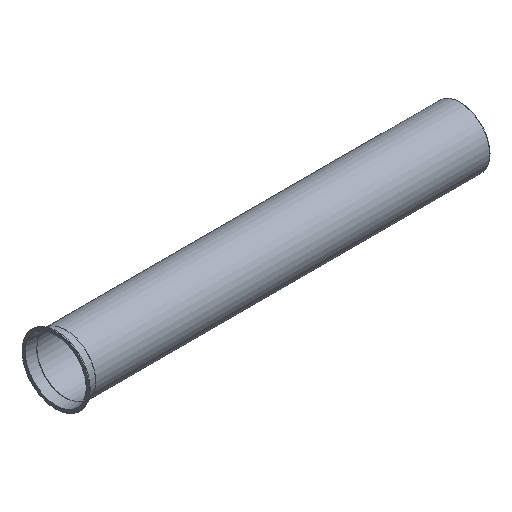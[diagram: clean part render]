
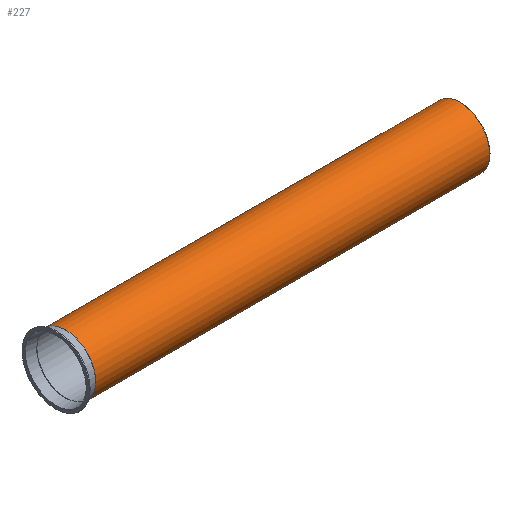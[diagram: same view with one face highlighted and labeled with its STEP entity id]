
A CAD part, isometric view. The second image highlights one B-rep face of the part: STEP entity #227.
In plain terms, the highlighted cylindrical face has radius 73 mm (diameter 146 mm), a full revolution.
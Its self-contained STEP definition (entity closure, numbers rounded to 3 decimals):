
#132=CARTESIAN_POINT('',(-2.081,46.334,0.0));
#133=VERTEX_POINT('',#132);
#134=CARTESIAN_POINT('',(-2.081,119.334,0.0));
#135=DIRECTION('',(-1.0,0.0,0.0));
#136=DIRECTION('',(0.0,-1.0,0.0));
#137=AXIS2_PLACEMENT_3D('',#134,#135,#136);
#138=CIRCLE('',#137,73.0);
#139=EDGE_CURVE('',#133,#133,#138,.T.);
#201=CARTESIAN_POINT('',(963.919,46.334,0.0));
#202=VERTEX_POINT('',#201);
#203=CARTESIAN_POINT('',(963.919,119.334,0.0));
#204=DIRECTION('',(-1.0,0.0,0.0));
#205=DIRECTION('',(0.0,-1.0,0.0));
#206=AXIS2_PLACEMENT_3D('',#203,#204,#205);
#207=CIRCLE('',#206,73.);
#208=EDGE_CURVE('',#202,#202,#207,.T.);
#216=CARTESIAN_POINT('',(480.919,119.334,0.0));
#217=DIRECTION('',(-1.0,0.,0.0));
#218=DIRECTION('',(0.0,-1.0,0.0));
#219=AXIS2_PLACEMENT_3D('',#216,#217,#218);
#220=CYLINDRICAL_SURFACE('',#219,73.);
#221=ORIENTED_EDGE('',*,*,#139,.F.);
#222=EDGE_LOOP('',(#221));
#223=FACE_OUTER_BOUND('',#222,.T.);
#224=ORIENTED_EDGE('',*,*,#208,.T.);
#225=EDGE_LOOP('',(#224));
#226=FACE_BOUND('',#225,.T.);
#227=ADVANCED_FACE('',(#223,#226),#220,.T.);
